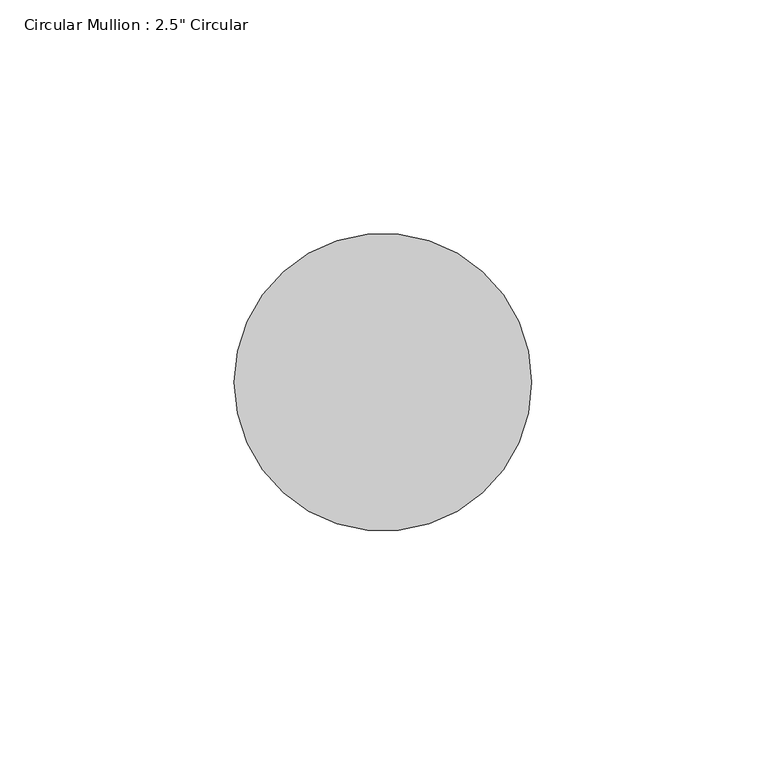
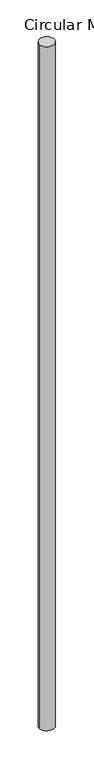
"""IFC4 building model written with IfcOpenShell, lengths in millimetres: member geometry."""

from ifc_helpers import new_model, si_unit, frame, origin, origin_with_axes, place, context, project, spatial, circle_curve, ellipse_curve, source, transform, mapped, element, save
from ifc_brep_helpers import plane_surface, cylinder_surface, advanced_brep


def member_9f7c07c6(model_context):
    return source(origin(), model_context, "Body", "AdvancedBrep", [
        advanced_brep(
        [(31.75, 0.0, 0.0), (-31.75, 0.0, 0.0), (31.75, 0.0, -3043.4489059), (-31.75, 0.0, -3044.2918777)],
        [
            (0, 1, circle_curve(origin_with_axes(), 31.75)),
            (1, 0, circle_curve(origin_with_axes(), 31.75)),
            (0, 2),
            (2, 3, ellipse_curve(frame((0.0, 0.0, -3043.8703918), z_axis=(-0.013258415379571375, 0.0484078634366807, 0.9987396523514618), x_axis=(0.2638278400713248, -0.9632630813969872, 0.05019070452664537)), 31.7900665, 31.75)),
            (3, 1),
            (3, 2, ellipse_curve(frame((0.0, 0.0, -3043.8703918), z_axis=(-0.013258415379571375, 0.0484078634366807, 0.9987396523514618), x_axis=(0.2638278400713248, -0.9632630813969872, 0.05019070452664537)), 31.7900665, 31.75)),
        ],
        [
            plane_surface(frame((0.0, -31.75, 0.0), z_axis=(0.0, 0.0, 1.0), x_axis=(-1.0, 0.0, 0.0))),
            cylinder_surface(origin_with_axes(), 31.75),
            plane_surface(frame((293.9730955, 80.5162041, -3043.8703918), z_axis=(0.013258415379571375, -0.0484078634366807, -0.9987396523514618), x_axis=(0.2638278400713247, -0.9632630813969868, 0.050190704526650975))),
        ],
        [
            (0, [[1, 2]]),
            (1, [[-1, 3, 4, 5]]),
            (1, [[-2, -5, 6, -3]]),
            (2, [[-6, -4]]),
        ],
    ),
    ])


if __name__ == "__main__":
    model = new_model("IFC4")
    model_context = context("Model", 3, world=origin())
    ifc_project = project(units=[si_unit("LENGTHUNIT", "METRE", prefix="MILLI")], contexts=[model_context])
    site = spatial("IfcSite", under=ifc_project)
    building = spatial("IfcBuilding", under=site)
    placement = place(None, origin())
    member_shape = member_9f7c07c6(model_context)
    element("IfcMember", 1, ObjectType="Circular Mullion : 2.5\" Circular", at=placement, inside=building, context=model_context, shape_type="MappedRepresentation", body=[
        mapped(member_shape, transform((0.0, 0.0, 0.0), x_axis=(1.0, 0.0, 0.0), y_axis=(0.0, 1.0, 0.0), z_axis=(0.0, 0.0, 1.0))),
    ])
    save(model, "model.ifc")
